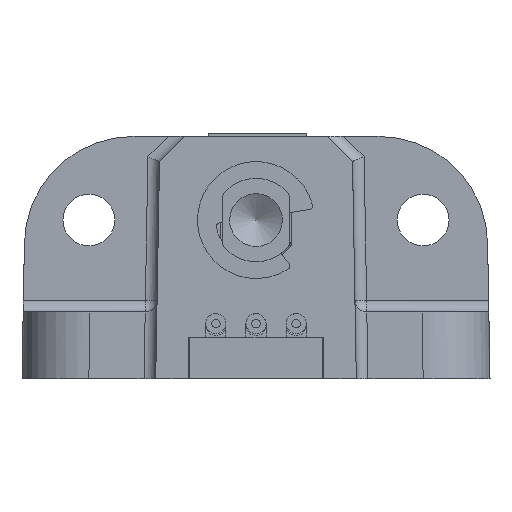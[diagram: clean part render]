
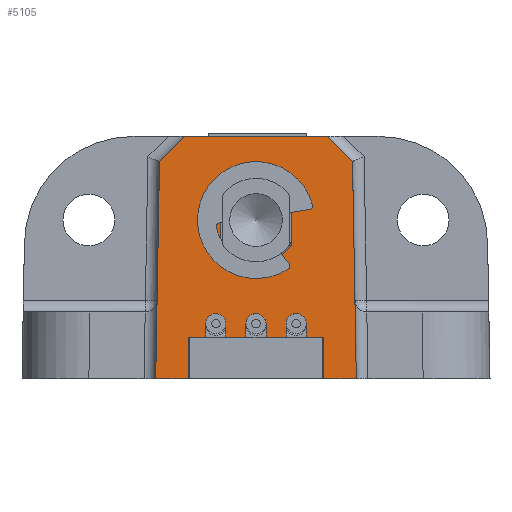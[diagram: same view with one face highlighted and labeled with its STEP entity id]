
A CAD part, front view. The second image highlights one B-rep face of the part: STEP entity #5105.
In plain terms, the highlighted planar face has unit normal (0, -1, 0.018).
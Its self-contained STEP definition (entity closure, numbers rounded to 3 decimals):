
#522=ELLIPSE('',#5915,0.6,0.6);
#523=ELLIPSE('',#5916,0.6,0.6);
#524=ELLIPSE('',#5917,0.601,0.601);
#525=ELLIPSE('',#5918,2.6,2.6);
#526=ELLIPSE('',#5919,2.6,2.6);
#563=ORIENTED_EDGE('',*,*,#2043,.T.);
#564=ORIENTED_EDGE('',*,*,#2044,.T.);
#565=ORIENTED_EDGE('',*,*,#2045,.T.);
#566=ORIENTED_EDGE('',*,*,#2046,.T.);
#567=ORIENTED_EDGE('',*,*,#2047,.T.);
#568=ORIENTED_EDGE('',*,*,#2048,.T.);
#569=ORIENTED_EDGE('',*,*,#2049,.T.);
#570=ORIENTED_EDGE('',*,*,#2050,.T.);
#571=ORIENTED_EDGE('',*,*,#2051,.T.);
#572=ORIENTED_EDGE('',*,*,#2052,.T.);
#573=ORIENTED_EDGE('',*,*,#2053,.T.);
#574=ORIENTED_EDGE('',*,*,#2054,.T.);
#575=ORIENTED_EDGE('',*,*,#2055,.T.);
#576=ORIENTED_EDGE('',*,*,#2056,.T.);
#577=ORIENTED_EDGE('',*,*,#2057,.T.);
#578=ORIENTED_EDGE('',*,*,#2058,.T.);
#579=ORIENTED_EDGE('',*,*,#2059,.T.);
#580=ORIENTED_EDGE('',*,*,#2060,.T.);
#581=ORIENTED_EDGE('',*,*,#2061,.T.);
#582=ORIENTED_EDGE('',*,*,#2062,.T.);
#583=ORIENTED_EDGE('',*,*,#2063,.T.);
#584=ORIENTED_EDGE('',*,*,#2064,.T.);
#585=ORIENTED_EDGE('',*,*,#2065,.T.);
#586=ORIENTED_EDGE('',*,*,#2066,.T.);
#587=ORIENTED_EDGE('',*,*,#2067,.T.);
#588=ORIENTED_EDGE('',*,*,#2068,.T.);
#2043=EDGE_CURVE('',#2783,#2784,#3281,.T.);
#2044=EDGE_CURVE('',#2784,#2785,#3282,.T.);
#2045=EDGE_CURVE('',#2785,#2786,#3283,.T.);
#2046=EDGE_CURVE('',#2786,#2787,#3284,.T.);
#2047=EDGE_CURVE('',#2787,#2788,#3285,.F.);
#2048=EDGE_CURVE('',#2788,#2789,#3286,.T.);
#2049=EDGE_CURVE('',#2789,#2790,#3287,.F.);
#2050=EDGE_CURVE('',#2790,#2791,#3288,.T.);
#2051=EDGE_CURVE('',#2791,#2792,#3289,.T.);
#2052=EDGE_CURVE('',#2792,#2793,#3290,.T.);
#2053=EDGE_CURVE('',#2793,#2794,#3291,.T.);
#2054=EDGE_CURVE('',#2794,#2795,#3292,.T.);
#2055=EDGE_CURVE('',#2795,#2796,#522,.F.);
#2056=EDGE_CURVE('',#2796,#2797,#3293,.T.);
#2057=EDGE_CURVE('',#2797,#2798,#3294,.T.);
#2058=EDGE_CURVE('',#2798,#2799,#3295,.T.);
#2059=EDGE_CURVE('',#2799,#2800,#523,.F.);
#2060=EDGE_CURVE('',#2800,#2801,#3296,.T.);
#2061=EDGE_CURVE('',#2801,#2802,#3297,.T.);
#2062=EDGE_CURVE('',#2802,#2803,#3298,.T.);
#2063=EDGE_CURVE('',#2803,#2804,#524,.F.);
#2064=EDGE_CURVE('',#2804,#2783,#3299,.T.);
#2065=EDGE_CURVE('',#2805,#2806,#3300,.T.);
#2066=EDGE_CURVE('',#2806,#2807,#525,.F.);
#2067=EDGE_CURVE('',#2807,#2808,#3301,.T.);
#2068=EDGE_CURVE('',#2808,#2805,#526,.F.);
#2783=VERTEX_POINT('',#8145);
#2784=VERTEX_POINT('',#8146);
#2785=VERTEX_POINT('',#8148);
#2786=VERTEX_POINT('',#8150);
#2787=VERTEX_POINT('',#8152);
#2788=VERTEX_POINT('',#8154);
#2789=VERTEX_POINT('',#8156);
#2790=VERTEX_POINT('',#8158);
#2791=VERTEX_POINT('',#8160);
#2792=VERTEX_POINT('',#8162);
#2793=VERTEX_POINT('',#8164);
#2794=VERTEX_POINT('',#8166);
#2795=VERTEX_POINT('',#8168);
#2796=VERTEX_POINT('',#8170);
#2797=VERTEX_POINT('',#8172);
#2798=VERTEX_POINT('',#8174);
#2799=VERTEX_POINT('',#8176);
#2800=VERTEX_POINT('',#8178);
#2801=VERTEX_POINT('',#8180);
#2802=VERTEX_POINT('',#8182);
#2803=VERTEX_POINT('',#8184);
#2804=VERTEX_POINT('',#8186);
#2805=VERTEX_POINT('',#8189);
#2806=VERTEX_POINT('',#8190);
#2807=VERTEX_POINT('',#8192);
#2808=VERTEX_POINT('',#8194);
#3281=LINE('',#8144,#3716);
#3282=LINE('',#8147,#3717);
#3283=LINE('',#8149,#3718);
#3284=LINE('',#8151,#3719);
#3285=LINE('',#8153,#3720);
#3286=LINE('',#8155,#3721);
#3287=LINE('',#8157,#3722);
#3288=LINE('',#8159,#3723);
#3289=LINE('',#8161,#3724);
#3290=LINE('',#8163,#3725);
#3291=LINE('',#8165,#3726);
#3292=LINE('',#8167,#3727);
#3293=LINE('',#8171,#3728);
#3294=LINE('',#8173,#3729);
#3295=LINE('',#8175,#3730);
#3296=LINE('',#8179,#3731);
#3297=LINE('',#8181,#3732);
#3298=LINE('',#8183,#3733);
#3299=LINE('',#8187,#3734);
#3300=LINE('',#8188,#3735);
#3301=LINE('',#8193,#3736);
#3716=VECTOR('',#6515,1000.);
#3717=VECTOR('',#6516,1000.);
#3718=VECTOR('',#6517,1000.);
#3719=VECTOR('',#6518,1000.);
#3720=VECTOR('',#6519,1000.);
#3721=VECTOR('',#6520,1000.);
#3722=VECTOR('',#6521,1000.);
#3723=VECTOR('',#6522,1000.);
#3724=VECTOR('',#6523,1000.);
#3725=VECTOR('',#6524,1000.);
#3726=VECTOR('',#6525,1000.);
#3727=VECTOR('',#6526,1000.);
#3728=VECTOR('',#6529,1000.);
#3729=VECTOR('',#6530,1000.);
#3730=VECTOR('',#6531,1000.);
#3731=VECTOR('',#6534,1000.);
#3732=VECTOR('',#6535,1000.);
#3733=VECTOR('',#6536,1000.);
#3734=VECTOR('',#6539,1000.);
#3735=VECTOR('',#6540,1000.);
#3736=VECTOR('',#6543,1000.);
#4151=EDGE_LOOP('',(#563,#564,#565,#566,#567,#568,#569,#570,#571,#572,#573,
#574,#575,#576,#577,#578,#579,#580,#581,#582,#583,#584));
#4152=EDGE_LOOP('',(#585,#586,#587,#588));
#4548=FACE_BOUND('',#4151,.T.);
#4549=FACE_BOUND('',#4152,.T.);
#4946=PLANE('',#5914);
#5105=ADVANCED_FACE('',(#4548,#4549),#4946,.T.);
#5914=AXIS2_PLACEMENT_3D('',#8143,#6513,#6514);
#5915=AXIS2_PLACEMENT_3D('',#8169,#6527,#6528);
#5916=AXIS2_PLACEMENT_3D('',#8177,#6532,#6533);
#5917=AXIS2_PLACEMENT_3D('',#8185,#6537,#6538);
#5918=AXIS2_PLACEMENT_3D('',#8191,#6541,#6542);
#5919=AXIS2_PLACEMENT_3D('',#8195,#6544,#6545);
#6513=DIRECTION('',(0.,-1.,0.017));
#6514=DIRECTION('',(0.,-0.017,-1.));
#6515=DIRECTION('',(1.,0.,0.));
#6516=DIRECTION('',(0.,-0.017,-1.));
#6517=DIRECTION('',(1.,0.,0.));
#6518=DIRECTION('',(-0.017,0.017,1.));
#6519=DIRECTION('',(0.713,-0.012,-0.701));
#6520=DIRECTION('',(-1.,0.,0.));
#6521=DIRECTION('',(0.713,0.012,0.701));
#6522=DIRECTION('',(-0.017,-0.017,-1.));
#6523=DIRECTION('',(1.,0.,0.));
#6524=DIRECTION('',(0.,0.017,1.));
#6525=DIRECTION('',(1.,0.,0.));
#6526=DIRECTION('',(0.,0.017,1.));
#6527=DIRECTION('',(0.,-1.,0.017));
#6528=DIRECTION('',(0.,-0.017,-1.));
#6529=DIRECTION('',(0.,-0.017,-1.));
#6530=DIRECTION('',(1.,0.,0.));
#6531=DIRECTION('',(0.,0.017,1.));
#6532=DIRECTION('',(0.,-1.,0.017));
#6533=DIRECTION('',(0.,-0.017,-1.));
#6534=DIRECTION('',(0.,-0.017,-1.));
#6535=DIRECTION('',(1.,0.,0.));
#6536=DIRECTION('',(0.,0.017,1.));
#6537=DIRECTION('',(0.,-1.,0.017));
#6538=DIRECTION('',(0.,-0.017,-1.));
#6539=DIRECTION('',(0.,-0.017,-1.));
#6540=DIRECTION('',(0.,0.017,1.));
#6541=DIRECTION('',(0.,-1.,0.017));
#6542=DIRECTION('',(0.,-0.017,-1.));
#6543=DIRECTION('',(0.,-0.017,-1.));
#6544=DIRECTION('',(0.,-1.,0.017));
#6545=DIRECTION('',(0.,-0.017,-1.));
#8143=CARTESIAN_POINT('',(0.,0.,-7.25));
#8144=CARTESIAN_POINT('',(0.,0.044,-4.75));
#8145=CARTESIAN_POINT('',(3.001,0.044,-4.75));
#8146=CARTESIAN_POINT('',(4.05,0.044,-4.75));
#8147=CARTESIAN_POINT('',(4.05,0.,-7.25));
#8148=CARTESIAN_POINT('',(4.05,0.,-7.25));
#8149=CARTESIAN_POINT('',(0.,0.,-7.25));
#8150=CARTESIAN_POINT('',(6.,0.,-7.25));
#8151=CARTESIAN_POINT('',(5.998,0.002,-7.145));
#8152=CARTESIAN_POINT('',(5.773,0.227,5.75));
#8153=CARTESIAN_POINT('',(9.337,0.166,2.248));
#8154=CARTESIAN_POINT('',(4.247,0.253,7.25));
#8155=CARTESIAN_POINT('',(0.,0.253,7.25));
#8156=CARTESIAN_POINT('',(-4.247,0.253,7.25));
#8157=CARTESIAN_POINT('',(-9.337,0.166,2.248));
#8158=CARTESIAN_POINT('',(-5.773,0.227,5.75));
#8159=CARTESIAN_POINT('',(-5.998,0.002,-7.145));
#8160=CARTESIAN_POINT('',(-6.,0.,-7.25));
#8161=CARTESIAN_POINT('',(0.,0.,-7.25));
#8162=CARTESIAN_POINT('',(-4.05,0.,-7.25));
#8163=CARTESIAN_POINT('',(-4.05,0.,-7.25));
#8164=CARTESIAN_POINT('',(-4.05,0.044,-4.75));
#8165=CARTESIAN_POINT('',(0.,0.044,-4.75));
#8166=CARTESIAN_POINT('',(-3.,0.044,-4.75));
#8167=CARTESIAN_POINT('',(-3.,0.,-7.25));
#8168=CARTESIAN_POINT('',(-3.,0.058,-3.95));
#8169=CARTESIAN_POINT('',(-2.4,0.058,-3.95));
#8170=CARTESIAN_POINT('',(-1.8,0.058,-3.95));
#8171=CARTESIAN_POINT('',(-1.8,0.,-7.25));
#8172=CARTESIAN_POINT('',(-1.8,0.044,-4.75));
#8173=CARTESIAN_POINT('',(0.,0.044,-4.75));
#8174=CARTESIAN_POINT('',(-0.6,0.044,-4.75));
#8175=CARTESIAN_POINT('',(-0.6,0.,-7.25));
#8176=CARTESIAN_POINT('',(-0.6,0.058,-3.95));
#8177=CARTESIAN_POINT('',(0.,0.058,-3.95));
#8178=CARTESIAN_POINT('',(0.6,0.058,-3.95));
#8179=CARTESIAN_POINT('',(0.6,0.,-7.25));
#8180=CARTESIAN_POINT('',(0.6,0.044,-4.75));
#8181=CARTESIAN_POINT('',(0.,0.044,-4.75));
#8182=CARTESIAN_POINT('',(1.8,0.044,-4.75));
#8183=CARTESIAN_POINT('',(1.8,0.,-7.25));
#8184=CARTESIAN_POINT('',(1.8,0.058,-3.95));
#8185=CARTESIAN_POINT('',(2.401,0.058,-3.95));
#8186=CARTESIAN_POINT('',(3.001,0.058,-3.95));
#8187=CARTESIAN_POINT('',(3.001,0.,-7.25));
#8188=CARTESIAN_POINT('',(-2.1,0.,-7.25));
#8189=CARTESIAN_POINT('',(-2.1,0.139,0.717));
#8190=CARTESIAN_POINT('',(-2.1,0.193,3.783));
#8191=CARTESIAN_POINT('',(0.,0.166,2.25));
#8192=CARTESIAN_POINT('',(2.1,0.193,3.783));
#8193=CARTESIAN_POINT('',(2.1,0.,-7.25));
#8194=CARTESIAN_POINT('',(2.1,0.139,0.717));
#8195=CARTESIAN_POINT('',(0.,0.166,2.25));
